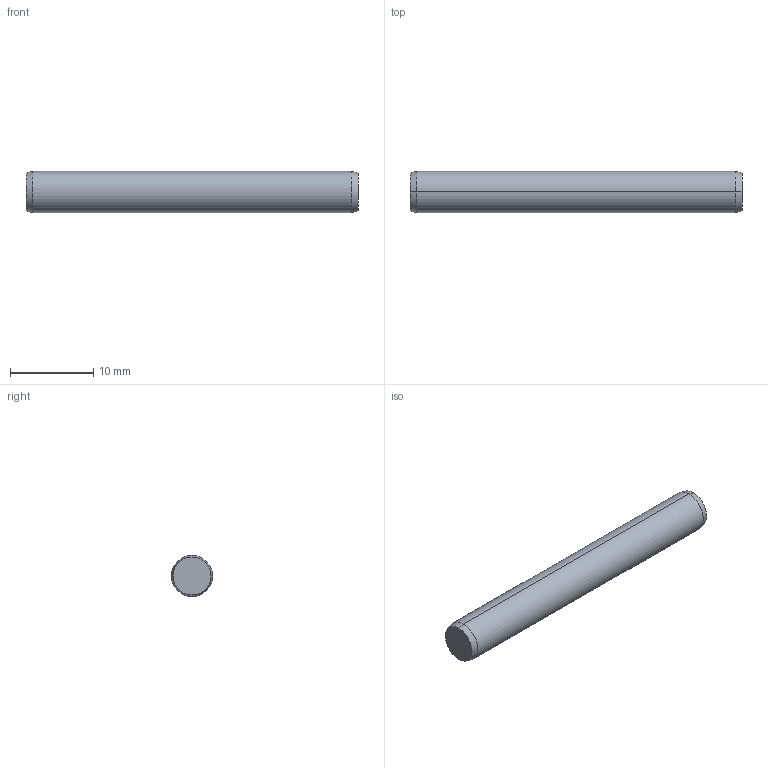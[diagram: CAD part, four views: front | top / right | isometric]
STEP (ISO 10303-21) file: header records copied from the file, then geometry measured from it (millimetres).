
FILE_DESCRIPTION (( 'STEP AP203' ), '1' );
FILE_NAME ('P1206.050-040.step', '2017-06-14T08:17:35', ( 'User' ), ( '' ), 'SwSTEP 2.0', 'SolidWorks 2009', '' );
FILE_SCHEMA (( 'CONFIG_CONTROL_DESIGN' ));
Length unit declared in the file: millimetre
Products named in the file (1): P1206.050-040
Bounding box: 40 x 5 x 5 mm (x, y, z)
Volume: 782.8 mm3; surface area: 660.9 mm2
Topology: 1 solids, 1 shells, 8 faces, 14 edges, 8 vertices
Faces by surface type: cone 4, cylinder 2, plane 2
Entity records: 271 total; most frequent: DIRECTION 40, CARTESIAN_POINT 31, ORIENTED_EDGE 28, AXIS2_PLACEMENT_3D 17, EDGE_CURVE 14, PERSON_AND_ORGANIZATION 8, ADVANCED_FACE 8, EDGE_LOOP 8
